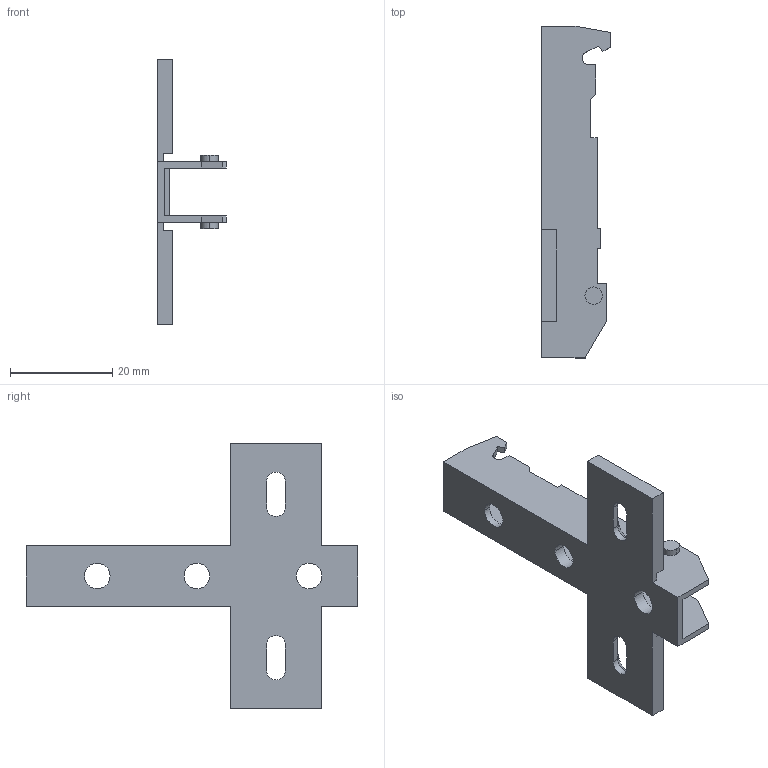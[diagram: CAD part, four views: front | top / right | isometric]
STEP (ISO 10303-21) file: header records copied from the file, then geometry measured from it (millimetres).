
FILE_DESCRIPTION (( 'STEP AP214' ), '1' );
FILE_NAME ('Eco Kreuzmontageplatte LR28_32_Spax_H03.step', '2010-11-18T10:05:31', ( 'grass' ), ( '' ), 'SwSTEP 2.0', 'SolidWorks 2010', '' );
FILE_SCHEMA (( 'AUTOMOTIVE_DESIGN' ));
Length unit declared in the file: millimetre
Products named in the file (1): Eco Kreuzmontageplatte LR28_32_Spax_H03
Bounding box: 13.5 x 65 x 52 mm (x, y, z)
Volume: 4573.1 mm3; surface area: 6046 mm2
Topology: 1 solids, 1 shells, 90 faces, 250 edges, 164 vertices
Faces by surface type: plane 70, cylinder 16, cone 4
Entity records: 2900 total; most frequent: CARTESIAN_POINT 505, ORIENTED_EDGE 500, DIRECTION 468, EDGE_CURVE 250, VECTOR 214, LINE 214, VERTEX_POINT 164, AXIS2_PLACEMENT_3D 127
